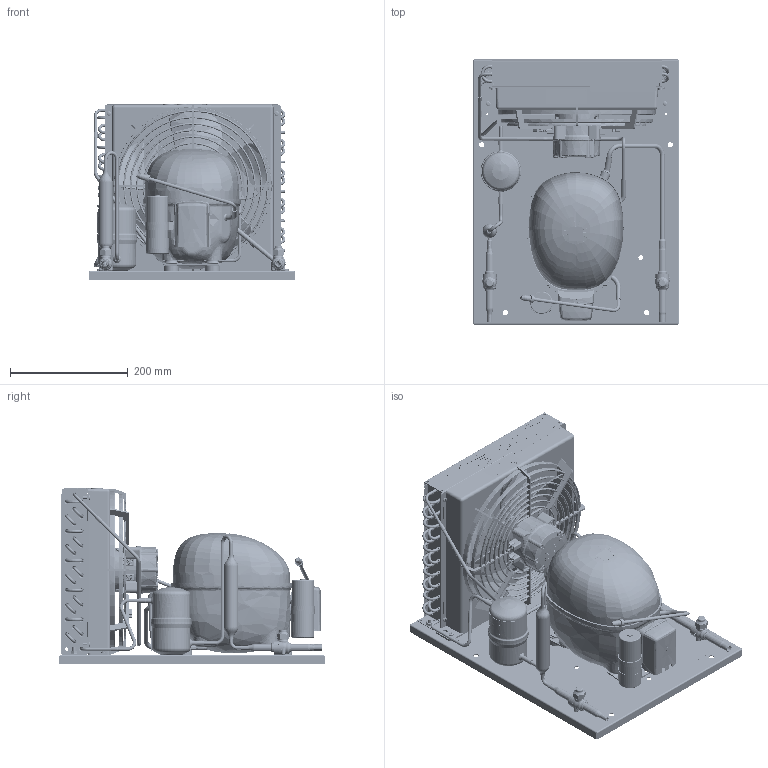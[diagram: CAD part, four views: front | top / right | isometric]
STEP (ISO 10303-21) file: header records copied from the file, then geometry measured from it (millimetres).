
FILE_DESCRIPTION(/* description */ ('Unknown','CAx-IF Rec.Pracs.---Representation and Presentation of Product Manufacturing Information (PMI)---4.0---2014-10-13','CAx-IF Rec.Pracs.---3D Tessellated Geometry---0.4---2014-09-14','2;1'),/* implementation_level */ '2;1');
FILE_NAME(/* name */ '2298-0089',/* time_stamp */ '2023-06-06T10:14:29+02:00',/* author */ ('Unknown'),/* organization */ ('Unknown'),/* preprocessor_version */ 'ST-DEVELOPER v16.7',/* originating_system */ 'Solid Edge',/* authorisation */ 'Unknown');
FILE_SCHEMA (('AP242_MANAGED_MODEL_BASED_3D_ENGINEERING_MIM_LF { 1 0 10303 442 1 1 4 }'));
Products named in the file (49): 2298-0089; 1130270FI0; rl5010606; rl5010607; r59a00320; RL5019401; 2905052522; 2905051820; rn5003508; r57a00320; RL5025004; 7000-0385; 103N2010; 9211-0497; cg254n; 118-3661; 99540010; GFN30_62-62; 84a4.2x9.5xtbcf01; 84fm6x14xxxtesf00; 84DM6X5.2XXESRF00; 99500100; 7400-0072; A254-28; 62010155; 6803-2420; GBC10S-009L7031; 9221-0002; 99000205; 55300397; 680062923; 6803-2418; 99000324; 99000327; 99000326; 99000321; GBC6S-009L7030; 99000025; 84dm4x3.6xxesrf00; 84RM10X21XXPIAF00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
Assembly tree (103 placements, depth 3):
  2298-0089
    1130270FI0
      rl5010606
      rl5010607
      r59a00320  x5
      RL5019401
      2905052522  x5
      2905051820  x10
      rn5003508
      r57a00320  x11
      RL5025004  x2
    7000-0385
    103N2010
    9211-0497
    cg254n
    118-3661  x4
    99540010
    GFN30_62-62
    84a4.2x9.5xtbcf01  x6
    84fm6x14xxxtesf00  x2
    84DM6X5.2XXESRF00  x2
    99500100
    7400-0072
    A254-28
    62010155
    6803-2420
    GBC10S-009L7031
    9221-0002
    99000205
    55300397
    680062923
    6803-2418
    99000324
    99000327
    99000326
    99000321
    GBC6S-009L7030
    99000025
    84dm4x3.6xxesrf00  x2
    84RM10X21XXPIAF00  x4
    99000044
    99000077_SECOP
    118-7353  x4
    680061642
    84DM8X6.9XXESRF00
    84fm3x6xxxxtfgf00  x4
    84rm3x8xxxxpiaf00  x8
    6803-2419
    6804-0936
Bounding box: 350 x 450 x 297.6 mm (x, y, z)
Volume: 4070020.3 mm3; surface area: 2102714.3 mm2
Topology: 111 solids, 118 shells, 13631 faces, 35589 edges, 22871 vertices
Faces by surface type: plane 6147, cylinder 2827, bspline 2463, torus 1350, cone 713, sphere 131
Full cylindrical faces by diameter (mm): 1.2 x4, 1.3 x2, 1.5 x4, 1.8 x2, 1.869 x1, 1.945 x3, 1.951 x1, 2 x20, 2.2 x4, 2.27 x3, 2.277 x3, 2.45 x6, 2.459 x4, 3 x4, 3.14 x6, 3.2 x1, 3.242 x2, 3.34 x8, 3.375 x1, 3.5 x20, 3.962 x1, 4 x38, 4.064 x1, 4.1 x1, 4.2 x23, 4.205 x11, 4.5 x41, 4.8 x2, 5 x75, 5.2 x2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
Entity records: 706424 total; most frequent: CARTESIAN_POINT 346905, ORIENTED_EDGE 64724, DIRECTION 50640, EDGE_CURVE 32362, VERTEX_POINT 21486, AXIS2_PLACEMENT_3D 18182, FACE_BOUND 15632, EDGE_LOOP 15628
